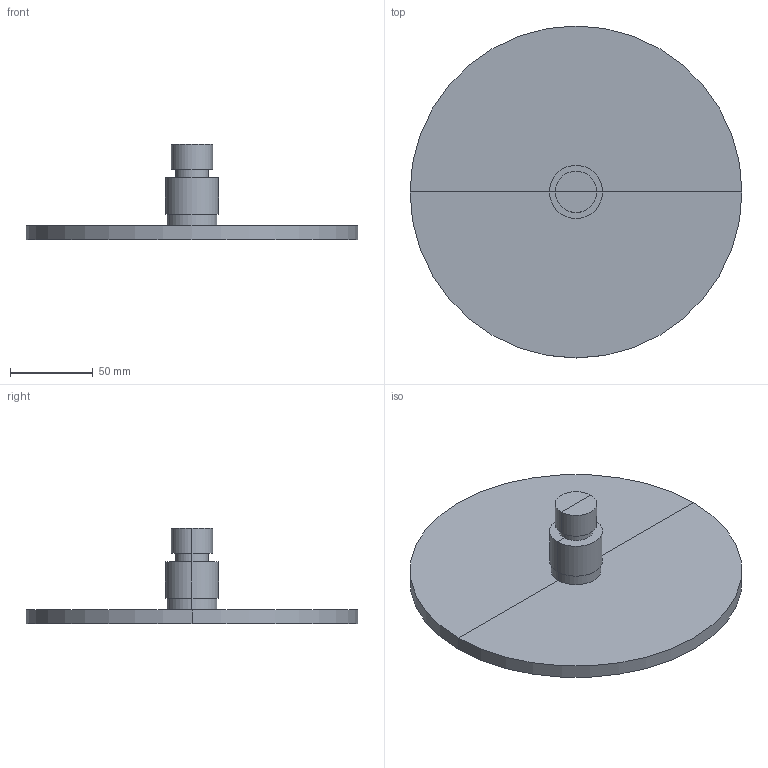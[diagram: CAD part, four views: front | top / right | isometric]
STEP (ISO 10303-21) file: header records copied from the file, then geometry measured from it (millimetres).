
FILE_DESCRIPTION(('FreeCAD Model'),'2;1');
FILE_NAME('Open CASCADE Shape Model','2024-07-23T17:23:18',('Author'),( ''),'Open CASCADE STEP processor 7.6','FreeCAD','Unknown');
FILE_SCHEMA(('AUTOMOTIVE_DESIGN { 1 0 10303 214 1 1 1 1 }'));
Length unit declared in the file: millimetre
Products named in the file (3): TopLevelAssembly; Obrót profilu; Obrót profilu001
Assembly tree (2 placements, depth 2):
  TopLevelAssembly
    Obrót profilu
    Obrót profilu001
Bounding box: 200 x 200 x 57.6 mm (x, y, z)
Volume: 295567.3 mm3; surface area: 74451 mm2
Topology: 2 solids, 2 shells, 24 faces, 40 edges, 20 vertices
Faces by surface type: plane 14, cylinder 10
Entity records: 610 total; most frequent: DIRECTION 114, CARTESIAN_POINT 87, ORIENTED_EDGE 80, AXIS2_PLACEMENT_3D 47, EDGE_CURVE 40, ADVANCED_FACE 24, FACE_BOUND 24, EDGE_LOOP 24
